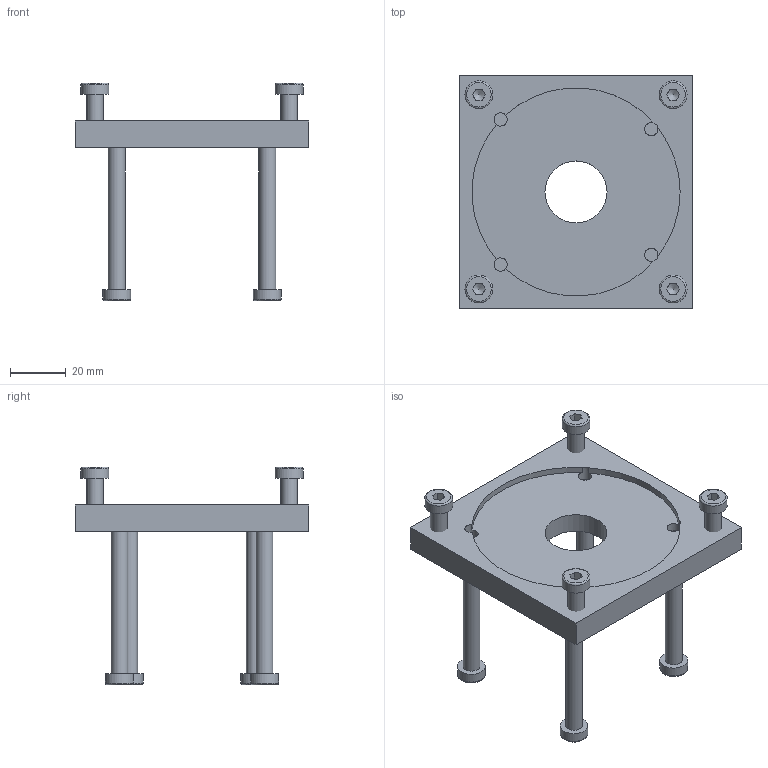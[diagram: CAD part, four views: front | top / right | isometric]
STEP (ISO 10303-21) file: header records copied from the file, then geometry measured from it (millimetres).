
FILE_DESCRIPTION((''),'2;1');
FILE_NAME('C:\AAAATEMP\28.9110 ADAPTOR PLATE LR6-NEMA 34.stp','2013-11-15T09:06:22',('Admin'),(''),'Autodesk Inventor 2012','Autodesk Inventor 2012','');
FILE_SCHEMA(('AUTOMOTIVE_DESIGN { 1 0 10303 214 1 1 1 1 }'));
Length unit declared in the file: inch
Products named in the file (4): 28.9110 ADAPTOR PLATE LR6-NEMA 34; 28.9110_1 ADAPTOR PLATE LR6-NEMA 34; 21.1248 M6X55; 21.1238  M6X16 SHCS
Assembly tree (9 placements, depth 2):
  28.9110 ADAPTOR PLATE LR6-NEMA 34
    28.9110_1 ADAPTOR PLATE LR6-NEMA 34
    21.1248 M6X55  x4
    21.1238  M6X16 SHCS  x4
Bounding box: 83.82 x 83.82 x 77.95 mm (x, y, z)
Volume: 62933 mm3; surface area: 26107.8 mm2
Topology: 9 solids, 9 shells, 132 faces, 307 edges, 198 vertices
Faces by surface type: plane 79, cylinder 29, cone 16, torus 8
Full cylindrical faces by diameter (mm): 4.773 x4, 4.928 x4, 6 x8, 10 x8, 22.225 x1
Entity records: 1505 total; most frequent: CARTESIAN_POINT 257, DIRECTION 250, ORIENTED_EDGE 196, AXIS2_PLACEMENT_3D 103, EDGE_CURVE 98, EDGE_LOOP 84, VERTEX_POINT 74, FACE_OUTER_BOUND 48
